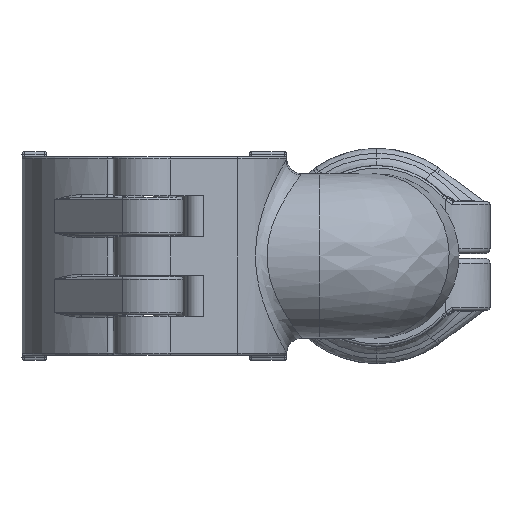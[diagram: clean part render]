
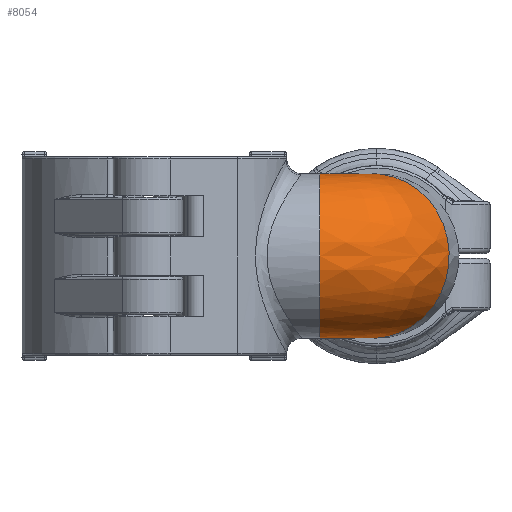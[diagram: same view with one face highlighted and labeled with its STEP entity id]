
A CAD part, left-side view. The second image highlights one B-rep face of the part: STEP entity #8054.
In plain terms, the highlighted free-form (B-spline) face has degree [3, 3] with [4, 7] control points.
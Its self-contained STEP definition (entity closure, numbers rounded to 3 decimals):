
#3198=CARTESIAN_POINT('',(8.931,-34.911,14.107));
#3247=CARTESIAN_POINT('',(10.722,-37.222,
-13.965));
#3248=CARTESIAN_POINT('',(10.508,-37.096,
-13.94));
#3249=CARTESIAN_POINT('',(10.109,-36.814,
-13.909));
#3250=CARTESIAN_POINT('',(9.576,-36.243,
-13.919));
#3251=CARTESIAN_POINT('',(9.198,-35.64,
-13.983));
#3252=CARTESIAN_POINT('',(9.005,-35.164,
-14.06));
#3253=CARTESIAN_POINT('',(8.931,-34.911,
-14.107));
#3258=CARTESIAN_POINT('',(0.,-34.911,
0.));
#3259=DIRECTION('',(0.,1.,0.));
#3260=DIRECTION('',(0.535,0.,-0.845));
#3261=AXIS2_PLACEMENT_3D('',#3258,#3259,#3260);
#3266=CARTESIAN_POINT('',(0.,-34.911,
0.));
#3267=DIRECTION('',(0.,1.,0.));
#3268=DIRECTION('',(0.,0.,-1.));
#3269=AXIS2_PLACEMENT_3D('',#3266,#3267,#3268);
#3274=CARTESIAN_POINT('',(0.,-34.911,
0.));
#3275=DIRECTION('',(0.,1.,0.));
#3276=DIRECTION('',(0.,0.,1.));
#3277=AXIS2_PLACEMENT_3D('',#3274,#3275,#3276);
#3282=CARTESIAN_POINT('',(8.931,-34.911,14.107));
#3283=CARTESIAN_POINT('',(9.005,-35.164,14.06));
#3284=CARTESIAN_POINT('',(9.198,-35.638,13.983));
#3285=CARTESIAN_POINT('',(9.573,-36.239,13.919));
#3286=CARTESIAN_POINT('',(10.108,-36.814,13.909));
#3287=CARTESIAN_POINT('',(10.507,-37.096,13.94));
#3288=CARTESIAN_POINT('',(10.722,-37.222,13.965));
#3293=CARTESIAN_POINT('',(7.355,-45.731,
0.));
#3294=DIRECTION('',(-0.93,0.368,0.));
#3295=DIRECTION('',(0.202,0.51,-0.836));
#3296=AXIS2_PLACEMENT_3D('',#3293,#3294,#3295);
#3301=CARTESIAN_POINT('',(7.355,-45.731,
0.));
#3302=DIRECTION('',(-0.93,0.368,0.));
#3303=DIRECTION('',(-0.202,-0.51,-0.836));
#3304=AXIS2_PLACEMENT_3D('',#3301,#3302,#3303);
#4491=CARTESIAN_POINT('',(0.,-34.911,
16.696));
#4492=VERTEX_POINT('',#4491);
#4493=CARTESIAN_POINT('',(0.,-34.911,
-16.696));
#4494=VERTEX_POINT('',#4493);
#4495=CARTESIAN_POINT('',(8.931,-34.911,
-14.107));
#4496=VERTEX_POINT('',#4495);
#4497=VERTEX_POINT('',#3198);
#4498=CARTESIAN_POINT('',(3.988,-54.24,
-13.965));
#4499=CARTESIAN_POINT('',(10.722,-37.222,13.965));
#4500=VERTEX_POINT('',#4498);
#4501=VERTEX_POINT('',#4499);
#4502=CARTESIAN_POINT('',(10.723,-37.222,
-13.965));
#4503=VERTEX_POINT('',#4502);
#8012=CARTESIAN_POINT('',(10.395,-34.832,
-13.068));
#8013=CARTESIAN_POINT('',(-2.175,-34.037,
-23.084));
#8014=CARTESIAN_POINT('',(-16.64,-33.123,
-16.092));
#8015=CARTESIAN_POINT('',(-16.64,-33.123,
0.));
#8016=CARTESIAN_POINT('',(-16.64,-33.123,
16.092));
#8017=CARTESIAN_POINT('',(-2.175,-34.037,
23.084));
#8018=CARTESIAN_POINT('',(10.395,-34.832,13.068));
#8019=CARTESIAN_POINT('',(10.358,-35.423,
-13.068));
#8020=CARTESIAN_POINT('',(-2.59,-40.603,
-23.084));
#8021=CARTESIAN_POINT('',(-17.489,-46.565,
-16.092));
#8022=CARTESIAN_POINT('',(-17.489,-46.565,
0.));
#8023=CARTESIAN_POINT('',(-17.49,-46.565,
16.092));
#8024=CARTESIAN_POINT('',(-2.59,-40.603,
23.084));
#8025=CARTESIAN_POINT('',(10.358,-35.423,13.068));
#8026=CARTESIAN_POINT('',(10.69,-35.912,
-13.068));
#8027=CARTESIAN_POINT('',(1.109,-46.044,
-23.084));
#8028=CARTESIAN_POINT('',(-9.918,-57.705,
-16.092));
#8029=CARTESIAN_POINT('',(-9.918,-57.705,
0.));
#8030=CARTESIAN_POINT('',(-9.918,-57.705,
16.092));
#8031=CARTESIAN_POINT('',(1.108,-46.045,23.084));
#8032=CARTESIAN_POINT('',(10.69,-35.912,13.068));
#8033=CARTESIAN_POINT('',(11.253,-36.094,
-13.068));
#8034=CARTESIAN_POINT('',(7.367,-48.075,
-23.084));
#8035=CARTESIAN_POINT('',(2.894,-61.861,
-16.092));
#8036=CARTESIAN_POINT('',(2.894,-61.861,
0.));
#8037=CARTESIAN_POINT('',(2.894,-61.861,16.092));
#8038=CARTESIAN_POINT('',(7.366,-48.075,23.084));
#8039=CARTESIAN_POINT('',(11.253,-36.094,13.068));
#8040=(BOUNDED_SURFACE()B_SPLINE_SURFACE(3,3,((#8012,#8013,#8014,#8015,#8016,
#8017,#8018),(#8019,#8020,#8021,#8022,#8023,#8024,#8025),(#8026,#8027,#8028,
#8029,#8030,#8031,#8032),(#8033,#8034,#8035,#8036,#8037,#8038,#8039)),
.UNSPECIFIED.,.F.,.F.,.F.)B_SPLINE_SURFACE_WITH_KNOTS((4,4),(4,3,4),(0.,1.),
(0.,1.,2.),.UNSPECIFIED.)GEOMETRIC_REPRESENTATION_ITEM()RATIONAL_B_SPLINE_SURFACE(((1.558,0.971,0.971,1.558,
0.971,0.971,1.558),(1.34,
0.835,0.835,1.34,0.835,
0.835,1.34),(1.34,0.835,
0.835,1.34,0.835,0.835,
1.34),(1.558,0.971,0.971,
1.558,0.971,0.971,1.558)))REPRESENTATION_ITEM('')SURFACE());
#8042=ORIENTED_EDGE('',*,*,#8041,.F.);
#8044=ORIENTED_EDGE('',*,*,#8043,.F.);
#8046=ORIENTED_EDGE('',*,*,#8045,.T.);
#8047=ORIENTED_EDGE('',*,*,#8001,.T.);
#8048=ORIENTED_EDGE('',*,*,#7801,.T.);
#8049=ORIENTED_EDGE('',*,*,#8005,.T.);
#8051=ORIENTED_EDGE('',*,*,#8050,.T.);
#8052=EDGE_LOOP('',(#8042,#8044,#8046,#8047,#8048,#8049,#8051));
#8053=FACE_OUTER_BOUND('',#8052,.F.);
#3254=B_SPLINE_CURVE_WITH_KNOTS('',3,(#3247,#3248,#3249,#3250,#3251,#3252,
#3253),.UNSPECIFIED.,.F.,.F.,(4,1,1,1,4),(0.,0.25,0.5,0.75,1.),
.UNSPECIFIED.);
#3262=CIRCLE('',#3261,16.696);
#3270=CIRCLE('',#3269,16.696);
#3278=CIRCLE('',#3277,16.696);
#3289=B_SPLINE_CURVE_WITH_KNOTS('',3,(#3282,#3283,#3284,#3285,#3286,#3287,
#3288),.UNSPECIFIED.,.F.,.F.,(4,1,1,1,4),(0.,0.25,0.5,0.75,1.),
.UNSPECIFIED.);
#3297=CIRCLE('',#3296,16.696);
#3305=CIRCLE('',#3304,16.696);
#7801=EDGE_CURVE('',#4494,#4492,#3270,.T.);
#8001=EDGE_CURVE('',#4496,#4494,#3262,.T.);
#8005=EDGE_CURVE('',#4492,#4497,#3278,.T.);
#8041=EDGE_CURVE('',#4500,#4501,#3305,.T.);
#8043=EDGE_CURVE('',#4503,#4500,#3297,.T.);
#8045=EDGE_CURVE('',#4503,#4496,#3254,.T.);
#8050=EDGE_CURVE('',#4497,#4501,#3289,.T.);
#8054=ADVANCED_FACE('',(#8053),#8040,.T.);
